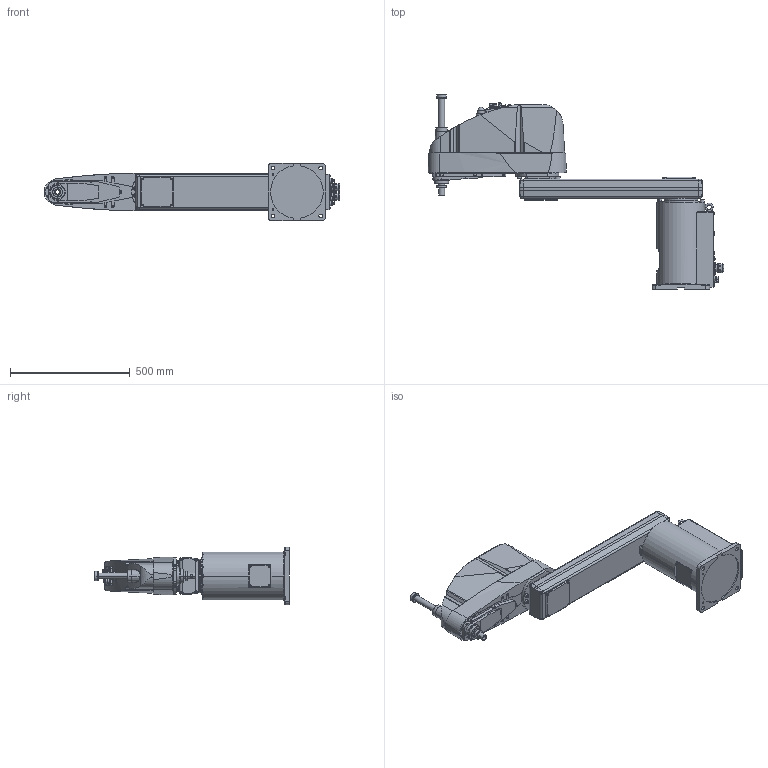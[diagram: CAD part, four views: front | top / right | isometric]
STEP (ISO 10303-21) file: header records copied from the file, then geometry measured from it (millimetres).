
FILE_DESCRIPTION( ( '' ), '1' );
FILE_NAME( '//expscmdclustefs.cadenas.external/client_exchange/iodir/jobs/output/wkb51398871_no0/STEP/G20_A01S_2_14b.stp', '2012-11-20T13:05:39', ( '' ), ( '' ), ' ', ' ', ' ' );
FILE_SCHEMA( ( 'automotive_design' ) );
Length unit declared in the file: millimetre
Products named in the file (4): 1; 2; 3; 4
Bounding box: 1234.5 x 813.5 x 240 mm (x, y, z)
Volume: 42342714.5 mm3; surface area: 1439427 mm2
Topology: 4 solids, 5 shells, 1783 faces, 4332 edges, 2812 vertices
Faces by surface type: plane 994, cylinder 573, cone 180, torus 35, sphere 1
Entity records: 103615 total; most frequent: CARTESIAN_POINT 10590, DIRECTION 9216, STYLED_ITEM 8923, PRESENTATION_STYLE_ASSIGNMENT 8923, COLOUR_RGB 8923, ORIENTED_EDGE 8648, EDGE_CURVE 4324, CURVE_STYLE 4324
